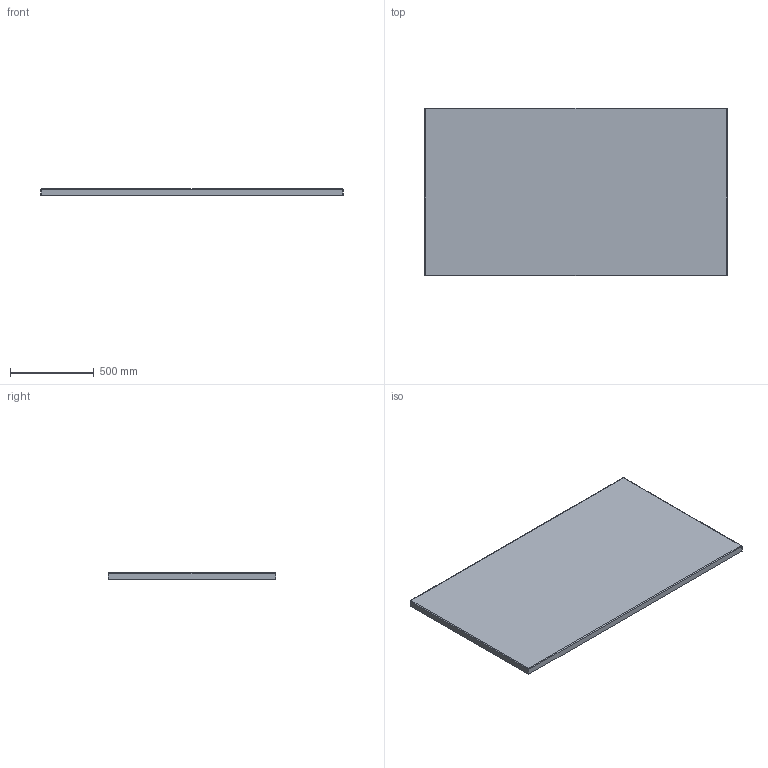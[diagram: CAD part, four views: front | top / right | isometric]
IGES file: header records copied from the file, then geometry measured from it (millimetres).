
Start section: SolidWorks IGES file using NURBS representation for surfaces
Global section: file name: W:\01-VICCARBE\PRODUCTOS\45-TRESTLE\04-MODELADOS (PLANOS)\WEB\IGES\viccarbe_trestle_backrest_simple.IGS; native system: SolidWorks 2013; preprocessor: SolidWorks 2013; author: Usuario; date: 140917.174151; units: millimetre
Bounding box: 1800 x 1000 x 40 mm (x, y, z)
Surface area: 3811758.2 mm2 (no closed solid volume)
Topology: 0 solids, 0 shells, 18 faces, 76 edges, 72 vertices
Faces by surface type: bspline 18
